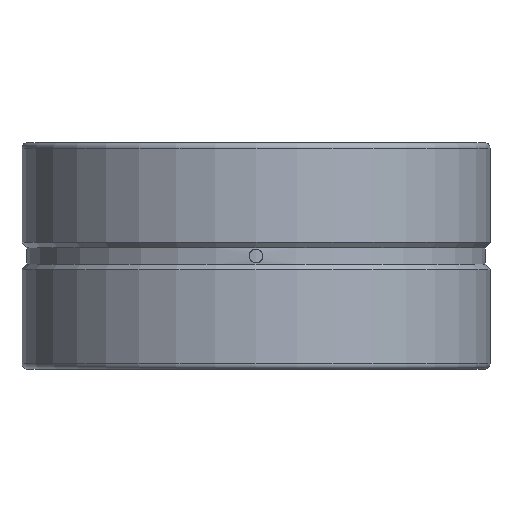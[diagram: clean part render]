
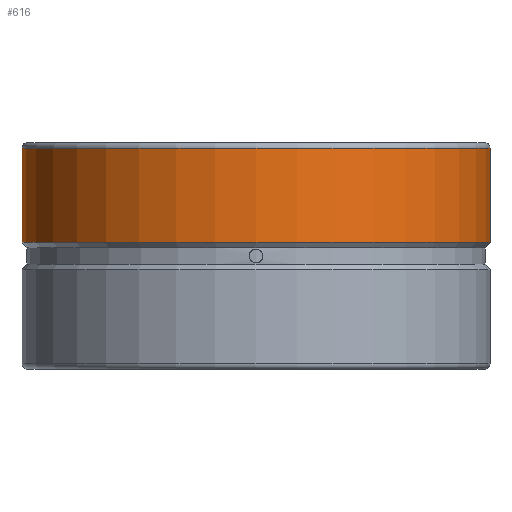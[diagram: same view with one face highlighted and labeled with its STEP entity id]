
A CAD part, front view. The second image highlights one B-rep face of the part: STEP entity #616.
In plain terms, the highlighted cylindrical face has radius 47.5 mm (diameter 95 mm), a full revolution.
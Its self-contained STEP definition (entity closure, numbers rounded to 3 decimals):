
#153=CIRCLE('',#670,47.5);
#154=CIRCLE('',#672,47.5);
#206=FACE_BOUND('',#307,.T.);
#255=FACE_OUTER_BOUND('',#306,.T.);
#306=EDGE_LOOP('',(#504));
#307=EDGE_LOOP('',(#505));
#407=VERTEX_POINT('',#1241);
#408=VERTEX_POINT('',#1244);
#455=EDGE_CURVE('',#407,#407,#153,.T.);
#456=EDGE_CURVE('',#408,#408,#154,.T.);
#504=ORIENTED_EDGE('',*,*,#456,.T.);
#505=ORIENTED_EDGE('',*,*,#455,.F.);
#595=CYLINDRICAL_SURFACE('',#671,47.5);
#616=ADVANCED_FACE('',(#255,#206),#595,.T.);
#670=AXIS2_PLACEMENT_3D('',#1242,#796,#797);
#671=AXIS2_PLACEMENT_3D('',#1243,#798,#799);
#672=AXIS2_PLACEMENT_3D('',#1245,#800,#801);
#796=DIRECTION('center_axis',(0.,0.,1.));
#797=DIRECTION('ref_axis',(0.,-1.,0.));
#798=DIRECTION('center_axis',(0.,0.,-1.));
#799=DIRECTION('ref_axis',(0.,1.,0.));
#800=DIRECTION('center_axis',(0.,0.,1.));
#801=DIRECTION('ref_axis',(0.,1.,0.));
#1241=CARTESIAN_POINT('',(0.,47.5,35.417));
#1242=CARTESIAN_POINT('Origin',(0.,0.,35.417));
#1243=CARTESIAN_POINT('Origin',(0.,0.,13.517));
#1244=CARTESIAN_POINT('',(0.,47.5,16.277));
#1245=CARTESIAN_POINT('Origin',(0.,0.,16.277));
